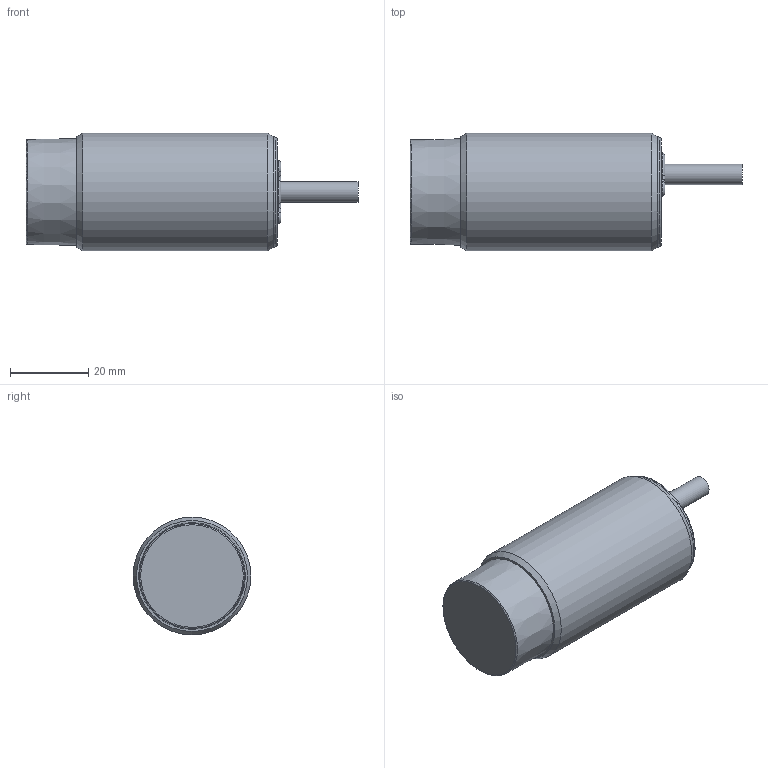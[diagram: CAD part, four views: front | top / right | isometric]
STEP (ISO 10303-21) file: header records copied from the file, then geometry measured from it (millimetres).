
FILE_DESCRIPTION(/* description */ (''),/* implementation_level */ '2;1');
FILE_NAME(/* name */ 'V:\AUTOCAD\_tegninger\Stepfiles - 3D\ICS\ICS30xxxxxxxxE1\ICS30L50N22xxB2E1.stp',/* time_stamp */ '2020-08-05T08:10:47+02:00',/* author */ ('TVB'),/* organization */ (''),/* preprocessor_version */ 'ST-DEVELOPER v18',/* originating_system */ 'Autodesk Inventor 2020',/* authorisation */ '');
FILE_SCHEMA (('AUTOMOTIVE_DESIGN { 1 0 10303 214 3 1 1 }'));
Length unit declared in the file: millimetre
Products named in the file (1): ICS30L50N22xxB2E1
Bounding box: 84.65 x 30 x 30 mm (x, y, z)
Volume: 43803.1 mm3; surface area: 7480.1 mm2
Topology: 1 solids, 1 shells, 38 faces, 88 edges, 56 vertices
Faces by surface type: torus 14, cylinder 10, plane 6, cone 4, bspline 4
Full cylindrical faces by diameter (mm): 5.2 x1, 30 x1
Entity records: 1224 total; most frequent: DIRECTION 228, CARTESIAN_POINT 215, ORIENTED_EDGE 176, AXIS2_PLACEMENT_3D 105, EDGE_CURVE 88, CIRCLE 70, VERTEX_POINT 56, EDGE_LOOP 42
